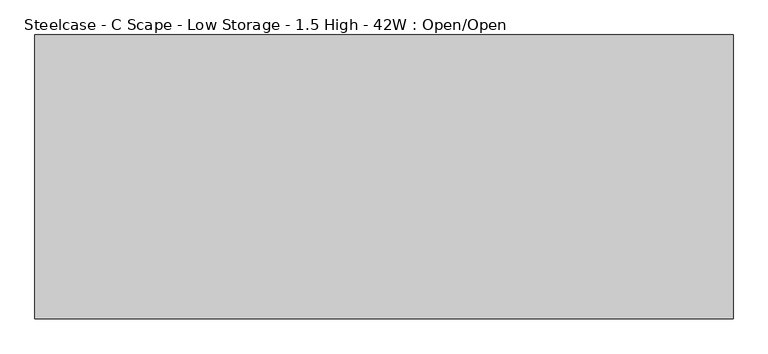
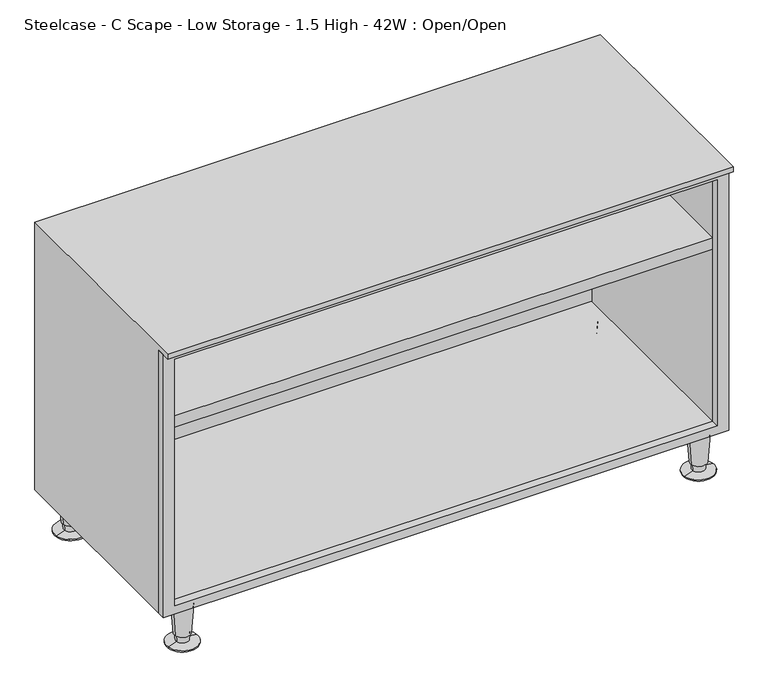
"""IFC4 building model written with IfcOpenShell, lengths in millimetres: furniture geometry, Steelcase - C Scape - Low Storage - 1.5 High - 42W : Open/Open."""

import ifcopenshell
import ifcopenshell.guid

model = None  # the IFC model being written
_history = None  # IfcOwnerHistory: only IFC2X3 demands one
_inside = {}  # id of a spatial element -> (the spatial element, [elements in it])
_under = {}  # id of a project, library or spatial element -> (it, [spatial elements below it])
_declared = {}  # id of a project -> (the project, [libraries it declares])
_typed = {}  # id of a type object -> (the type object, [elements of that type])
_made_of = {}  # id of a material, layer set ... -> (it, [elements and type objects made of it])


def new_model(schema):
    """Start an empty IFC model of exactly this schema.

    Asked for "IFC4X3", IfcOpenShell would pick the latest addendum, in which some entities
    have other attributes; the version numbers below select the first issue.
    IFC2X3 requires an IfcOwnerHistory on every rooted entity: one is made here for all.
    """
    global model, _history
    if schema == "IFC4X3":
        model = ifcopenshell.file(schema_version=(4, 3, 0, 0))
    else:
        model = ifcopenshell.file(schema=schema)
    _inside.clear()
    _under.clear()
    _declared.clear()
    _typed.clear()
    _made_of.clear()
    _history = None
    if model.schema == "IFC2X3":
        org = make("IfcOrganization", Name="unknown")
        user = make(
            "IfcPersonAndOrganization",
            ThePerson=make("IfcPerson", FamilyName="unknown"),
            TheOrganization=org,
        )
        app = make(
            "IfcApplication",
            ApplicationDeveloper=org,
            Version="unknown",
            ApplicationFullName="unknown",
            ApplicationIdentifier="unknown",
        )
        _history = make(
            "IfcOwnerHistory",
            OwningUser=user,
            OwningApplication=app,
            ChangeAction="ADDED",
            CreationDate=0,
        )
    return model


def make(cls, **values):
    """One entity of the class cls with the attributes given. An attribute that is None is left unset."""
    return model.create_entity(
        cls, **{name: value for name, value in values.items() if value is not None}
    )


def rooted(cls, **values):
    """An entity with a GlobalId (a new one), such as an element, a storey or a relation."""
    return make(cls, GlobalId=ifcopenshell.guid.new(), OwnerHistory=_history, **values)


def si_unit(unit_type, name, prefix=None):
    """IfcSIUnit, for example si_unit("LENGTHUNIT", "METRE", prefix="MILLI")."""
    return make("IfcSIUnit", UnitType=unit_type, Prefix=prefix, Name=name)


def assignment(units):
    """IfcUnitAssignment: the units of a project."""
    return None if units is None else make("IfcUnitAssignment", Units=units)


def point(xyz):
    """IfcCartesianPoint."""
    return None if xyz is None else make("IfcCartesianPoint", Coordinates=xyz)


def direction(xyz):
    """IfcDirection."""
    return None if xyz is None else make("IfcDirection", DirectionRatios=xyz)


def frame(location, z_axis=None, x_axis=None):
    """IfcAxis2Placement3D, a coordinate frame: its origin and axes. An axis left out is left unset."""
    return make(
        "IfcAxis2Placement3D",
        Location=point(location),
        Axis=direction(z_axis),
        RefDirection=direction(x_axis),
    )


def origin():
    """The frame at (0, 0, 0) with its axes left unset."""
    return frame((0.0, 0.0, 0.0))


def place(relative_to, where):
    """IfcLocalPlacement: puts the frame where relative to a parent placement (None: the world)."""
    return make(
        "IfcLocalPlacement", PlacementRelTo=relative_to, RelativePlacement=where
    )


def context(
    kind, dimensions, precision=None, world=None, true_north=None, identifier=None
):
    """IfcGeometricRepresentationContext, for example the 3D "Model" context."""
    return make(
        "IfcGeometricRepresentationContext",
        ContextIdentifier=identifier,
        ContextType=kind,
        CoordinateSpaceDimension=dimensions,
        Precision=precision,
        WorldCoordinateSystem=world,
        TrueNorth=true_north,
    )


def project(units=None, contexts=None):
    """IfcProject with its units and contexts."""
    return rooted(
        "IfcProject",
        Name="project",
        RepresentationContexts=contexts,
        UnitsInContext=assignment(units),
    )


def spatial(cls, under=None, at=None, **own):
    """A site, building, storey or space (cls), placed at a placement, below another one or the project."""
    s = rooted(cls, ObjectPlacement=at, **own)
    if under is not None:
        _under.setdefault(under.id(), (under, []))[1].append(s)
    return s


def polyline(points):
    """IfcPolyline through the points."""
    return make("IfcPolyline", Points=[point(p) for p in points])


def circle_curve(where, radius):
    """IfcCircle in the frame where."""
    return make("IfcCircle", Position=where, Radius=radius)


def outline(outer, holes=None, kind="AREA"):
    """IfcArbitraryClosedProfileDef: a profile drawn as a closed curve; with holes, ...WithVoids."""
    if holes is None:
        return make("IfcArbitraryClosedProfileDef", ProfileType=kind, OuterCurve=outer)
    return make(
        "IfcArbitraryProfileDefWithVoids",
        ProfileType=kind,
        OuterCurve=outer,
        InnerCurves=holes,
    )


def extrude(swept, where, along, depth):
    """IfcExtrudedAreaSolid: the profile swept, set in the frame where, extruded along a direction by depth."""
    return make(
        "IfcExtrudedAreaSolid",
        SweptArea=swept,
        Position=where,
        ExtrudedDirection=direction(along),
        Depth=depth,
    )


def faces_of(points, faces, orient=None, outer=None):
    """IfcFace entities. A face is a list of loops; a loop is a list of indices into points, from 0.

    orient and outer hold one flag for each loop. By default every Orientation is true, the
    first loop of a face is its IfcFaceOuterBound and the others are IfcFaceBound.
    """
    made = []
    for i, loops in enumerate(faces):
        bounds = []
        for j, loop in enumerate(loops):
            is_outer = j == 0 if outer is None else outer[i][j]
            bounds.append(
                make(
                    "IfcFaceOuterBound" if is_outer else "IfcFaceBound",
                    Bound=make("IfcPolyLoop", Polygon=[points[k] for k in loop]),
                    Orientation=True if orient is None else orient[i][j],
                )
            )
        made.append(make("IfcFace", Bounds=bounds))
    return made


def faceted_brep(points, faces, orient=None, outer=None, voids=None):
    """IfcFacetedBrep: a solid bounded by flat faces; with voids (closed shells), ...WithVoids."""
    shared = [point(p) for p in points]
    hull = make("IfcClosedShell", CfsFaces=faces_of(shared, faces, orient, outer))
    if voids is None:
        return make("IfcFacetedBrep", Outer=hull)
    return make(
        "IfcFacetedBrepWithVoids",
        Outer=hull,
        Voids=[
            make(cls, CfsFaces=faces_of(shared, fs, o, b)) for cls, fs, o, b in voids
        ],
    )


def shape(context_of_items, identifier, shape_type, items):
    """IfcShapeRepresentation: the items that make up one representation, for example the "Body"."""
    return make(
        "IfcShapeRepresentation",
        ContextOfItems=context_of_items,
        RepresentationIdentifier=identifier,
        RepresentationType=shape_type,
        Items=items,
    )


def source(mapping_origin, context_of_items, identifier, shape_type, items):
    """IfcRepresentationMap: a shape defined once, which mapped items show again and again."""
    return make(
        "IfcRepresentationMap",
        MappingOrigin=mapping_origin,
        MappedRepresentation=shape(context_of_items, identifier, shape_type, items),
    )


def transform(
    local_origin,
    x_axis=None,
    y_axis=None,
    z_axis=None,
    scale=None,
    scale2=None,
    scale3=None,
    uniform=True,
):
    """IfcCartesianTransformationOperator3D, or its non-uniform kind. x_axis, y_axis, z_axis: its Axis1, 2, 3."""
    if uniform:
        return make(
            "IfcCartesianTransformationOperator3D",
            Axis1=direction(x_axis),
            Axis2=direction(y_axis),
            LocalOrigin=point(local_origin),
            Scale=scale,
            Axis3=direction(z_axis),
        )
    return make(
        "IfcCartesianTransformationOperator3DnonUniform",
        Axis1=direction(x_axis),
        Axis2=direction(y_axis),
        LocalOrigin=point(local_origin),
        Scale=scale,
        Axis3=direction(z_axis),
        Scale2=scale2,
        Scale3=scale3,
    )


def mapped(mapping_source, mapping_target):
    """IfcMappedItem: shows the shape of a source again, moved by a transform."""
    return make(
        "IfcMappedItem", MappingSource=mapping_source, MappingTarget=mapping_target
    )


def made_of(thing, what):
    """Note that an element or type object is made of a material, layer set ...; save() writes the relation."""
    if what is not None:
        _made_of.setdefault(what.id(), (what, []))[1].append(thing)
    return thing


def element(
    cls,
    number,
    at=None,
    inside=None,
    cuts=None,
    type_object=None,
    material=None,
    context=None,
    identifier="Body",
    shape_type=None,
    held_by="IfcProductDefinitionShape",
    body=None,
    shapes=None,
    **own,
):
    """One element of the class cls, such as IfcWall. Its Tag is "e" and its number.

    at: its placement. inside: the storey or other place that contains it. cuts: it is an
    opening in that element (IfcRelVoidsElement). A single representation is given by context,
    identifier, shape_type and body (its items); several are given by shapes. held_by: the class
    of the entity that holds the representations. save() writes the other relations.
    """
    e = rooted(cls, Tag="e%d" % number, ObjectPlacement=at, **own)
    if body is not None:
        shapes = [shape(context, identifier, shape_type, body)]
    if shapes is not None:
        e.Representation = make(held_by, Representations=shapes)
    if inside is not None:
        _inside.setdefault(inside.id(), (inside, []))[1].append(e)
    if cuts is not None:
        rooted(
            "IfcRelVoidsElement", RelatingBuildingElement=cuts, RelatedOpeningElement=e
        )
    if type_object is not None:
        _typed.setdefault(type_object.id(), (type_object, []))[1].append(e)
    return made_of(e, material)


def aggregate(whole, parts):
    """IfcRelAggregates: a whole, such as a stair, and the parts it consists of."""
    return rooted("IfcRelAggregates", RelatingObject=whole, RelatedObjects=parts)


def save(model, path):
    """Write the relations noted so far, then the file.

    IfcRelAggregates (storeys below a building ...), IfcRelContainedInSpatialStructure (elements
    in a storey), IfcRelDefinesByType, IfcRelAssociatesMaterial and IfcRelDeclares: one each for
    every whole, place, type object, material and project.
    """
    for whole, parts in _under.values():
        aggregate(whole, parts)
    for where, things in _inside.values():
        rooted(
            "IfcRelContainedInSpatialStructure",
            RelatedElements=things,
            RelatingStructure=where,
        )
    for kind, things in _typed.values():
        rooted("IfcRelDefinesByType", RelatedObjects=things, RelatingType=kind)
    for what, things in _made_of.values():
        rooted("IfcRelAssociatesMaterial", RelatedObjects=things, RelatingMaterial=what)
    for by, libraries in _declared.values():
        rooted("IfcRelDeclares", RelatingContext=by, RelatedDefinitions=libraries)
    model.write(path)


def plane_surface(at):
    """IfcPlane: the flat surface through the origin of the frame at, square to its z axis."""
    return make("IfcPlane", Position=at)


def cylinder_surface(at, radius):
    """IfcCylindricalSurface: all points at the distance radius from the z axis of the frame at."""
    return make("IfcCylindricalSurface", Position=at, Radius=radius)


def revolved_surface(curve, axis_point, axis_direction):
    """IfcSurfaceOfRevolution: the curve turned about the line through axis_point along axis_direction."""
    return make(
        "IfcSurfaceOfRevolution",
        SweptCurve=make("IfcArbitraryOpenProfileDef", ProfileType="CURVE", Curve=curve),
        AxisPosition=make("IfcAxis1Placement", Location=point(axis_point), Axis=direction(axis_direction)),
    )


def advanced_brep(points, edges, surfaces, faces):
    """IfcAdvancedBrep: a solid bounded by faces that lie on surfaces and meet in shared edges.

    An edge is (start, end): straight between two places in points (the first is 0);
    or (start, end, curve); or (start, end, curve, False) where it runs against its curve.
    A face is (place in surfaces, loops), or (place, loops, False) where it looks against
    its surface's normal. A loop lists edges by number (the first is 1), with a minus sign
    where the edge is run from its end to its start. The first loop is the outer one.
    """
    corners = [point(p) for p in points]
    vertices = [make("IfcVertexPoint", VertexGeometry=c) for c in corners]
    made = []
    for start, end, *more in edges:
        made.append(
            make(
                "IfcEdgeCurve",
                EdgeStart=vertices[start],
                EdgeEnd=vertices[end],
                EdgeGeometry=more[0] if more else make("IfcPolyline", Points=[corners[start], corners[end]]),
                SameSense=more[1] if len(more) > 1 else True,
            )
        )
    hull = []
    for where, loops, *sense in faces:
        bounds = []
        for j, loop in enumerate(loops):
            ring = [make("IfcOrientedEdge", EdgeElement=made[abs(k) - 1], Orientation=k > 0) for k in loop]
            bounds.append(
                make(
                    "IfcFaceOuterBound" if j == 0 else "IfcFaceBound",
                    Bound=make("IfcEdgeLoop", EdgeList=ring),
                    Orientation=True,
                )
            )
        hull.append(make("IfcAdvancedFace", Bounds=bounds, FaceSurface=surfaces[where], SameSense=sense[0] if sense else True))
    return make("IfcAdvancedBrep", Outer=make("IfcClosedShell", CfsFaces=hull))


def steelcase_c_scape_low_storage_1_5_high_42w_open_open_fb169fb0(model_context):
    return source(origin(), model_context, "Body", "SolidModel", [
        extrude(outline(polyline([(599.44, 532.2710512), (599.44, 0.0), (76.1999955, 0.0), (76.1999955, 1065.53), (599.44, 1065.53), (599.44, 532.2710512)]), holes=[polyline([(92.7100024, 1043.5617285), (92.7100024, 21.3382324), (582.93, 21.3382324), (582.93, 1043.5617285), (92.7100024, 1043.5617285)])]), frame((0.0, -419.3484735, 0.0), z_axis=(0.0, 1.0, 0.0), x_axis=(0.0, 0.0, 1.0)), (0.0, 0.0, 1.0), 14.9862946),
        advanced_brep(
        [(1038.2598695, -31.5218435, 76.2), (1000.5981305, -37.2840847, 76.2), (1019.429, -34.4029641, 76.2), (1034.3095214, -32.1262463, 19.05), (1004.5484786, -36.6796819, 19.05), (1031.8799345, -32.4979728, 19.05), (1006.9780655, -36.3079555, 19.05), (1031.191165, -32.6033544, 5.7545598), (1007.666835, -36.2025738, 5.7545598), (1048.5400485, -29.9489775, 2.5119506), (990.3179515, -38.8569507, 2.5119506), (1048.5400485, -29.9489775, 0.0), (990.3179515, -38.8569507, 0.0), (1019.429, -34.4029641, 0.0)],
        [
            (0, 1, circle_curve(frame((1019.429, -34.4029641, 76.2), z_axis=(0.0, 0.0, 1.0), x_axis=(0.0, -1.0, 0.0)), 19.05)),
            (1, 2),
            (2, 0),
            (1, 0, circle_curve(frame((1019.429, -34.4029641, 76.2), z_axis=(0.0, 0.0, 1.0), x_axis=(0.0, -1.0, 0.0)), 19.05)),
            (3, 4, circle_curve(frame((1019.429, -34.4029641, 19.05), z_axis=(0.0, 0.0, 1.0), x_axis=(0.0, -1.0, 0.0)), 15.0536827)),
            (4, 1),
            (0, 3),
            (4, 3, circle_curve(frame((1019.429, -34.4029641, 19.05), z_axis=(0.0, 0.0, 1.0), x_axis=(0.0, -1.0, 0.0)), 15.0536827)),
            (5, 6, circle_curve(frame((1019.429, -34.4029641, 19.05), z_axis=(0.0, 0.0, 1.0), x_axis=(0.0, -1.0, 0.0)), 12.5958232)),
            (6, 4),
            (3, 5),
            (6, 5, circle_curve(frame((1019.429, -34.4029641, 19.05), z_axis=(0.0, 0.0, 1.0), x_axis=(0.0, -1.0, 0.0)), 12.5958232)),
            (7, 8, circle_curve(frame((1019.429, -34.4029641, 5.7545598), z_axis=(0.0, 0.0, 1.0), x_axis=(0.0, -1.0, 0.0)), 11.8990387)),
            (8, 6),
            (5, 7),
            (8, 7, circle_curve(frame((1019.429, -34.4029641, 5.7545598), z_axis=(0.0, 0.0, 1.0), x_axis=(0.0, -1.0, 0.0)), 11.8990387)),
            (9, 10, circle_curve(frame((1019.429, -34.4029641, 2.5119506), z_axis=(0.0, 0.0, 1.0), x_axis=(0.0, -1.0, 0.0)), 29.4498071)),
            (10, 8),
            (7, 9),
            (10, 9, circle_curve(frame((1019.429, -34.4029641, 2.5119506), z_axis=(0.0, 0.0, 1.0), x_axis=(0.0, -1.0, 0.0)), 29.4498071)),
            (11, 12, circle_curve(frame((1019.429, -34.4029641, 0.0), z_axis=(0.0, 0.0, 1.0), x_axis=(0.0, -1.0, 0.0)), 29.4498071)),
            (12, 10),
            (9, 11),
            (12, 11, circle_curve(frame((1019.429, -34.4029641, 0.0), z_axis=(0.0, 0.0, 1.0), x_axis=(0.0, -1.0, 0.0)), 29.4498071)),
            (13, 12),
            (11, 13),
        ],
        [
            plane_surface(frame((1019.429, -34.4029641, 76.2), z_axis=(0.0, 0.0, 1.0), x_axis=(0.0, -1.0, 0.0))),
            revolved_surface(polyline([(1019.429, -53.4529641, 76.2), (1019.429, -49.4566468, 19.05)]), (1019.429, -34.4029641, 25.4), (0.0, 0.0, -1.0)),
            plane_surface(frame((1019.429, -34.4029641, 19.05), z_axis=(0.0, 0.0, -1.0), x_axis=(0.0, -1.0, 0.0))),
            revolved_surface(polyline([(1019.429, -46.9987873, 19.05), (1019.429, -46.3020028, 5.7545598)]), (1019.429, -34.4029641, 25.4), (0.0, 0.0, -1.0)),
            revolved_surface(polyline([(1019.429, -46.3020028, 5.7545598), (1019.429, -63.8527712, 2.5119506)]), (1019.429, -34.4029641, 25.4), (0.0, 0.0, -1.0)),
            cylinder_surface(frame((1019.429, -34.4029641, 25.4), z_axis=(0.0, 0.0, -1.0), x_axis=(0.0, -1.0, 0.0)), 29.4498071),
            plane_surface(frame((1019.429, -34.4029641, 0.0), z_axis=(0.0, 0.0, -1.0), x_axis=(0.0, -1.0, 0.0))),
        ],
        [
            (0, [[1, 2, 3]]),
            (0, [[4, -3, -2]]),
            (1, [[5, 6, -1, 7]]),
            (1, [[8, -7, -4, -6]]),
            (2, [[9, 10, -5, 11]]),
            (2, [[12, -11, -8, -10]]),
            (3, [[13, 14, -9, 15]]),
            (3, [[16, -15, -12, -14]]),
            (4, [[17, 18, -13, 19]]),
            (4, [[20, -19, -16, -18]]),
            (5, [[21, 22, -17, 23]]),
            (5, [[24, -23, -20, -22]]),
            (6, [[25, -21, 26]]),
            (6, [[-26, -24, -25]]),
        ],
    ),
        advanced_brep(
        [(1038.2598695, -397.1702762, 76.2), (1000.5981305, -402.9325174, 76.2), (1019.429, -400.0513968, 76.2), (1034.3095214, -397.774679, 19.05), (1004.5484786, -402.3281146, 19.05), (1031.8799345, -398.1464055, 19.05), (1006.9780655, -401.9563882, 19.05), (1031.191165, -398.2517871, 5.7545598), (1007.666835, -401.8510065, 5.7545598), (1048.5400485, -395.5974102, 2.5119506), (990.3179515, -404.5053834, 2.5119506), (1048.5400485, -395.5974102, 0.0), (990.3179515, -404.5053834, 0.0), (1019.429, -400.0513968, 0.0)],
        [
            (0, 1, circle_curve(frame((1019.429, -400.0513968, 76.2), z_axis=(0.0, 0.0, 1.0), x_axis=(0.0, -1.0, 0.0)), 19.05)),
            (1, 2),
            (2, 0),
            (1, 0, circle_curve(frame((1019.429, -400.0513968, 76.2), z_axis=(0.0, 0.0, 1.0), x_axis=(0.0, -1.0, 0.0)), 19.05)),
            (3, 4, circle_curve(frame((1019.429, -400.0513968, 19.05), z_axis=(0.0, 0.0, 1.0), x_axis=(0.0, -1.0, 0.0)), 15.0536827)),
            (4, 1),
            (0, 3),
            (4, 3, circle_curve(frame((1019.429, -400.0513968, 19.05), z_axis=(0.0, 0.0, 1.0), x_axis=(0.0, -1.0, 0.0)), 15.0536827)),
            (5, 6, circle_curve(frame((1019.429, -400.0513968, 19.05), z_axis=(0.0, 0.0, 1.0), x_axis=(0.0, -1.0, 0.0)), 12.5958232)),
            (6, 4),
            (3, 5),
            (6, 5, circle_curve(frame((1019.429, -400.0513968, 19.05), z_axis=(0.0, 0.0, 1.0), x_axis=(0.0, -1.0, 0.0)), 12.5958232)),
            (7, 8, circle_curve(frame((1019.429, -400.0513968, 5.7545598), z_axis=(0.0, 0.0, 1.0), x_axis=(0.0, -1.0, 0.0)), 11.8990387)),
            (8, 6),
            (5, 7),
            (8, 7, circle_curve(frame((1019.429, -400.0513968, 5.7545598), z_axis=(0.0, 0.0, 1.0), x_axis=(0.0, -1.0, 0.0)), 11.8990387)),
            (9, 10, circle_curve(frame((1019.429, -400.0513968, 2.5119506), z_axis=(0.0, 0.0, 1.0), x_axis=(0.0, -1.0, 0.0)), 29.4498071)),
            (10, 8),
            (7, 9),
            (10, 9, circle_curve(frame((1019.429, -400.0513968, 2.5119506), z_axis=(0.0, 0.0, 1.0), x_axis=(0.0, -1.0, 0.0)), 29.4498071)),
            (11, 12, circle_curve(frame((1019.429, -400.0513968, 0.0), z_axis=(0.0, 0.0, 1.0), x_axis=(0.0, -1.0, 0.0)), 29.4498071)),
            (12, 10),
            (9, 11),
            (12, 11, circle_curve(frame((1019.429, -400.0513968, 0.0), z_axis=(0.0, 0.0, 1.0), x_axis=(0.0, -1.0, 0.0)), 29.4498071)),
            (13, 12),
            (11, 13),
        ],
        [
            plane_surface(frame((1019.429, -400.0513968, 76.2), z_axis=(0.0, 0.0, 1.0), x_axis=(0.0, -1.0, 0.0))),
            revolved_surface(polyline([(1019.429, -419.1013968, 76.2), (1019.429, -415.1050795, 19.05)]), (1019.429, -400.0513968, 25.4), (0.0, 0.0, -1.0)),
            plane_surface(frame((1019.429, -400.0513968, 19.05), z_axis=(0.0, 0.0, -1.0), x_axis=(0.0, -1.0, 0.0))),
            revolved_surface(polyline([(1019.429, -412.64722, 19.05), (1019.429, -411.9504355, 5.7545598)]), (1019.429, -400.0513968, 25.4), (0.0, 0.0, -1.0)),
            revolved_surface(polyline([(1019.429, -411.9504355, 5.7545598), (1019.429, -429.5012039, 2.5119506)]), (1019.429, -400.0513968, 25.4), (0.0, 0.0, -1.0)),
            cylinder_surface(frame((1019.429, -400.0513968, 25.4), z_axis=(0.0, 0.0, -1.0), x_axis=(0.0, -1.0, 0.0)), 29.4498071),
            plane_surface(frame((1019.429, -400.0513968, 0.0), z_axis=(0.0, 0.0, -1.0), x_axis=(0.0, -1.0, 0.0))),
        ],
        [
            (0, [[1, 2, 3]]),
            (0, [[4, -3, -2]]),
            (1, [[5, 6, -1, 7]]),
            (1, [[8, -7, -4, -6]]),
            (2, [[9, 10, -5, 11]]),
            (2, [[12, -11, -8, -10]]),
            (3, [[13, 14, -9, 15]]),
            (3, [[16, -15, -12, -14]]),
            (4, [[17, 18, -13, 19]]),
            (4, [[20, -19, -16, -18]]),
            (5, [[21, 22, -17, 23]]),
            (5, [[24, -23, -20, -22]]),
            (6, [[25, -21, 26]]),
            (6, [[-26, -24, -25]]),
        ],
    ),
        advanced_brep(
        [(65.5422821, -397.1702762, 76.2), (27.8805432, -402.9325174, 76.2), (46.7114126, -400.0513968, 76.2), (61.5919341, -397.774679, 19.05), (31.8308912, -402.3281146, 19.05), (59.1623471, -398.1464055, 19.05), (34.2604781, -401.9563882, 19.05), (58.4735776, -398.2517871, 5.7545598), (34.9492476, -401.8510065, 5.7545598), (75.8224611, -395.5974102, 2.5119506), (17.6003641, -404.5053834, 2.5119506), (75.8224611, -395.5974102, 0.0), (17.6003641, -404.5053834, 0.0), (46.7114126, -400.0513968, 0.0)],
        [
            (0, 1, circle_curve(frame((46.7114126, -400.0513968, 76.2), z_axis=(0.0, 0.0, 1.0), x_axis=(0.0, -1.0, 0.0)), 19.05)),
            (1, 2),
            (2, 0),
            (1, 0, circle_curve(frame((46.7114126, -400.0513968, 76.2), z_axis=(0.0, 0.0, 1.0), x_axis=(0.0, -1.0, 0.0)), 19.05)),
            (3, 4, circle_curve(frame((46.7114126, -400.0513968, 19.05), z_axis=(0.0, 0.0, 1.0), x_axis=(0.0, -1.0, 0.0)), 15.0536827)),
            (4, 1),
            (0, 3),
            (4, 3, circle_curve(frame((46.7114126, -400.0513968, 19.05), z_axis=(0.0, 0.0, 1.0), x_axis=(0.0, -1.0, 0.0)), 15.0536827)),
            (5, 6, circle_curve(frame((46.7114126, -400.0513968, 19.05), z_axis=(0.0, 0.0, 1.0), x_axis=(0.0, -1.0, 0.0)), 12.5958232)),
            (6, 4),
            (3, 5),
            (6, 5, circle_curve(frame((46.7114126, -400.0513968, 19.05), z_axis=(0.0, 0.0, 1.0), x_axis=(0.0, -1.0, 0.0)), 12.5958232)),
            (7, 8, circle_curve(frame((46.7114126, -400.0513968, 5.7545598), z_axis=(0.0, 0.0, 1.0), x_axis=(0.0, -1.0, 0.0)), 11.8990387)),
            (8, 6),
            (5, 7),
            (8, 7, circle_curve(frame((46.7114126, -400.0513968, 5.7545598), z_axis=(0.0, 0.0, 1.0), x_axis=(0.0, -1.0, 0.0)), 11.8990387)),
            (9, 10, circle_curve(frame((46.7114126, -400.0513968, 2.5119506), z_axis=(0.0, 0.0, 1.0), x_axis=(0.0, -1.0, 0.0)), 29.4498071)),
            (10, 8),
            (7, 9),
            (10, 9, circle_curve(frame((46.7114126, -400.0513968, 2.5119506), z_axis=(0.0, 0.0, 1.0), x_axis=(0.0, -1.0, 0.0)), 29.4498071)),
            (11, 12, circle_curve(frame((46.7114126, -400.0513968, 0.0), z_axis=(0.0, 0.0, 1.0), x_axis=(0.0, -1.0, 0.0)), 29.4498071)),
            (12, 10),
            (9, 11),
            (12, 11, circle_curve(frame((46.7114126, -400.0513968, 0.0), z_axis=(0.0, 0.0, 1.0), x_axis=(0.0, -1.0, 0.0)), 29.4498071)),
            (13, 12),
            (11, 13),
        ],
        [
            plane_surface(frame((46.7114126, -400.0513968, 76.2), z_axis=(0.0, 0.0, 1.0), x_axis=(0.0, -1.0, 0.0))),
            revolved_surface(polyline([(46.7114126, -419.1013968, 76.2), (46.7114126, -415.1050795, 19.05)]), (46.7114126, -400.0513968, 25.4), (0.0, 0.0, -1.0)),
            plane_surface(frame((46.7114126, -400.0513968, 19.05), z_axis=(0.0, 0.0, -1.0), x_axis=(0.0, -1.0, 0.0))),
            revolved_surface(polyline([(46.7114126, -412.64722, 19.05), (46.7114126, -411.9504355, 5.7545598)]), (46.7114126, -400.0513968, 25.4), (0.0, 0.0, -1.0)),
            revolved_surface(polyline([(46.7114126, -411.9504355, 5.7545598), (46.7114126, -429.5012039, 2.5119506)]), (46.7114126, -400.0513968, 25.4), (0.0, 0.0, -1.0)),
            cylinder_surface(frame((46.7114126, -400.0513968, 25.4), z_axis=(0.0, 0.0, -1.0), x_axis=(0.0, -1.0, 0.0)), 29.4498071),
            plane_surface(frame((46.7114126, -400.0513968, 0.0), z_axis=(0.0, 0.0, -1.0), x_axis=(0.0, -1.0, 0.0))),
        ],
        [
            (0, [[1, 2, 3]]),
            (0, [[4, -3, -2]]),
            (1, [[5, 6, -1, 7]]),
            (1, [[8, -7, -4, -6]]),
            (2, [[9, 10, -5, 11]]),
            (2, [[12, -11, -8, -10]]),
            (3, [[13, 14, -9, 15]]),
            (3, [[16, -15, -12, -14]]),
            (4, [[17, 18, -13, 19]]),
            (4, [[20, -19, -16, -18]]),
            (5, [[21, 22, -17, 23]]),
            (5, [[24, -23, -20, -22]]),
            (6, [[25, -21, 26]]),
            (6, [[-26, -24, -25]]),
        ],
    ),
        advanced_brep(
        [(65.5422821, -31.5218435, 76.2), (27.8805432, -37.2840847, 76.2), (46.7114126, -34.4029641, 76.2), (61.5919341, -32.1262463, 19.05), (31.8308912, -36.6796819, 19.05), (59.1623471, -32.4979728, 19.05), (34.2604781, -36.3079555, 19.05), (58.4735776, -32.6033544, 5.7545598), (34.9492476, -36.2025738, 5.7545598), (75.8224611, -29.9489775, 2.5119506), (17.6003641, -38.8569507, 2.5119506), (75.8224611, -29.9489775, 0.0), (17.6003641, -38.8569507, 0.0), (46.7114126, -34.4029641, 0.0)],
        [
            (0, 1, circle_curve(frame((46.7114126, -34.4029641, 76.2), z_axis=(0.0, 0.0, 1.0), x_axis=(0.0, -1.0, 0.0)), 19.05)),
            (1, 2),
            (2, 0),
            (1, 0, circle_curve(frame((46.7114126, -34.4029641, 76.2), z_axis=(0.0, 0.0, 1.0), x_axis=(0.0, -1.0, 0.0)), 19.05)),
            (3, 4, circle_curve(frame((46.7114126, -34.4029641, 19.05), z_axis=(0.0, 0.0, 1.0), x_axis=(0.0, -1.0, 0.0)), 15.0536827)),
            (4, 1),
            (0, 3),
            (4, 3, circle_curve(frame((46.7114126, -34.4029641, 19.05), z_axis=(0.0, 0.0, 1.0), x_axis=(0.0, -1.0, 0.0)), 15.0536827)),
            (5, 6, circle_curve(frame((46.7114126, -34.4029641, 19.05), z_axis=(0.0, 0.0, 1.0), x_axis=(0.0, -1.0, 0.0)), 12.5958232)),
            (6, 4),
            (3, 5),
            (6, 5, circle_curve(frame((46.7114126, -34.4029641, 19.05), z_axis=(0.0, 0.0, 1.0), x_axis=(0.0, -1.0, 0.0)), 12.5958232)),
            (7, 8, circle_curve(frame((46.7114126, -34.4029641, 5.7545598), z_axis=(0.0, 0.0, 1.0), x_axis=(0.0, -1.0, 0.0)), 11.8990387)),
            (8, 6),
            (5, 7),
            (8, 7, circle_curve(frame((46.7114126, -34.4029641, 5.7545598), z_axis=(0.0, 0.0, 1.0), x_axis=(0.0, -1.0, 0.0)), 11.8990387)),
            (9, 10, circle_curve(frame((46.7114126, -34.4029641, 2.5119506), z_axis=(0.0, 0.0, 1.0), x_axis=(0.0, -1.0, 0.0)), 29.4498071)),
            (10, 8),
            (7, 9),
            (10, 9, circle_curve(frame((46.7114126, -34.4029641, 2.5119506), z_axis=(0.0, 0.0, 1.0), x_axis=(0.0, -1.0, 0.0)), 29.4498071)),
            (11, 12, circle_curve(frame((46.7114126, -34.4029641, 0.0), z_axis=(0.0, 0.0, 1.0), x_axis=(0.0, -1.0, 0.0)), 29.4498071)),
            (12, 10),
            (9, 11),
            (12, 11, circle_curve(frame((46.7114126, -34.4029641, 0.0), z_axis=(0.0, 0.0, 1.0), x_axis=(0.0, -1.0, 0.0)), 29.4498071)),
            (13, 12),
            (11, 13),
        ],
        [
            plane_surface(frame((46.7114126, -34.4029641, 76.2), z_axis=(0.0, 0.0, 1.0), x_axis=(0.0, -1.0, 0.0))),
            revolved_surface(polyline([(46.7114126, -53.4529641, 76.2), (46.7114126, -49.4566468, 19.05)]), (46.7114126, -34.4029641, 25.4), (0.0, 0.0, -1.0)),
            plane_surface(frame((46.7114126, -34.4029641, 19.05), z_axis=(0.0, 0.0, -1.0), x_axis=(0.0, -1.0, 0.0))),
            revolved_surface(polyline([(46.7114126, -46.9987873, 19.05), (46.7114126, -46.3020028, 5.7545598)]), (46.7114126, -34.4029641, 25.4), (0.0, 0.0, -1.0)),
            revolved_surface(polyline([(46.7114126, -46.3020028, 5.7545598), (46.7114126, -63.8527712, 2.5119506)]), (46.7114126, -34.4029641, 25.4), (0.0, 0.0, -1.0)),
            cylinder_surface(frame((46.7114126, -34.4029641, 25.4), z_axis=(0.0, 0.0, -1.0), x_axis=(0.0, -1.0, 0.0)), 29.4498071),
            plane_surface(frame((46.7114126, -34.4029641, 0.0), z_axis=(0.0, 0.0, -1.0), x_axis=(0.0, -1.0, 0.0))),
        ],
        [
            (0, [[1, 2, 3]]),
            (0, [[4, -3, -2]]),
            (1, [[5, 6, -1, 7]]),
            (1, [[8, -7, -4, -6]]),
            (2, [[9, 10, -5, 11]]),
            (2, [[12, -11, -8, -10]]),
            (3, [[13, 14, -9, 15]]),
            (3, [[16, -15, -12, -14]]),
            (4, [[17, 18, -13, 19]]),
            (4, [[20, -19, -16, -18]]),
            (5, [[21, 22, -17, 23]]),
            (5, [[24, -23, -20, -22]]),
            (6, [[25, -21, 26]]),
            (6, [[-26, -24, -25]]),
        ],
    ),
        faceted_brep([(0.0, 0.0, 609.6), (1065.53, 0.0, 609.6), (1065.53, 0.0, 458.7875121), (1065.53, 0.0, 435.8005068), (1065.53, 0.0, 76.2), (0.0, 0.0, 76.2), (0.0, 0.0, 435.8005068), (0.0, 0.0, 458.7875121), (0.0, -404.362179, 76.2), (0.0, -404.362179, 599.44), (0.0, -433.07, 599.44), (0.0, -433.07, 609.6), (1065.53, -404.362179, 76.2), (1065.53, -404.362179, 599.44), (1043.5617285, -404.362179, 599.44), (1043.5617285, -404.362179, 458.7875121), (21.3382324, -404.362179, 458.7875121), (21.3382324, -404.362179, 599.44), (1043.5617285, -404.362179, 435.8005068), (1043.5617285, -404.362179, 92.7100024), (21.3382324, -404.362179, 92.7100024), (21.3382324, -404.362179, 435.8005068), (21.3382324, -9.525, 599.44), (21.3382324, -9.525, 458.7875121), (21.3382324, -9.525, 435.8005068), (21.3382324, -9.525, 92.7100024), (1043.5617285, -9.525, 599.44), (1043.5617285, -9.525, 458.7875121), (1043.5617285, -9.525, 435.8005068), (1043.5617285, -9.525, 92.7100024), (1065.53, -433.07, 609.6), (1065.53, -433.07, 599.44)], [[[0, 1, 2, 3, 4, 5, 6, 7]], [[5, 8, 9, 10, 11, 0, 7, 6]], [[8, 12, 13, 14, 15, 16, 17, 9], [18, 19, 20, 21]], [[22, 17, 16, 23]], [[24, 21, 20, 25]], [[26, 22, 23, 27]], [[28, 24, 25, 29]], [[14, 26, 27, 15]], [[18, 28, 29, 19]], [[12, 4, 3, 2, 1, 30, 31, 13]], [[1, 0, 11, 30]], [[31, 10, 9, 17, 22, 26, 14, 13]], [[30, 11, 10, 31]], [[16, 15, 27, 23]], [[18, 21, 24, 28]], [[20, 19, 29, 25]], [[4, 12, 8, 5]]]),
    ])


if __name__ == "__main__":
    model = new_model("IFC4")
    model_context = context("Model", 3, world=origin())
    ifc_project = project(units=[si_unit("LENGTHUNIT", "METRE", prefix="MILLI")], contexts=[model_context])
    site = spatial("IfcSite", under=ifc_project)
    building = spatial("IfcBuilding", under=site)
    placement = place(None, origin())
    steelcase_c_scape_low_storage_1_5_high_42w_open_open_shape = steelcase_c_scape_low_storage_1_5_high_42w_open_open_fb169fb0(model_context)
    element("IfcFurniture", 1, ObjectType="Steelcase - C Scape - Low Storage - 1.5 High - 42W : Open/Open", at=placement, inside=building, context=model_context, shape_type="MappedRepresentation", body=[
        mapped(steelcase_c_scape_low_storage_1_5_high_42w_open_open_shape, transform((0.0, 0.0, 0.0), x_axis=(1.0, 0.0, 0.0), y_axis=(0.0, 1.0, 0.0), z_axis=(0.0, 0.0, 1.0))),
    ])
    save(model, "model.ifc")
